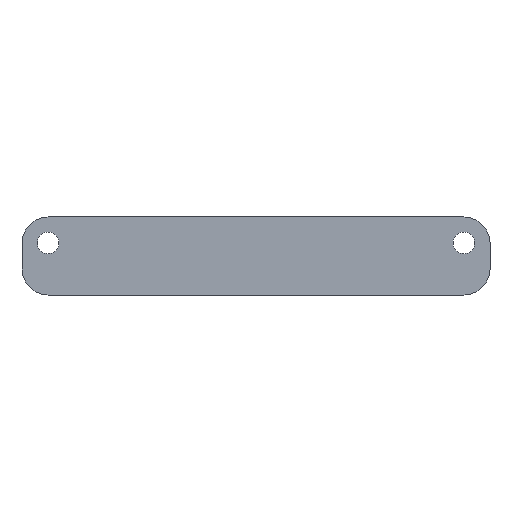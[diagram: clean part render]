
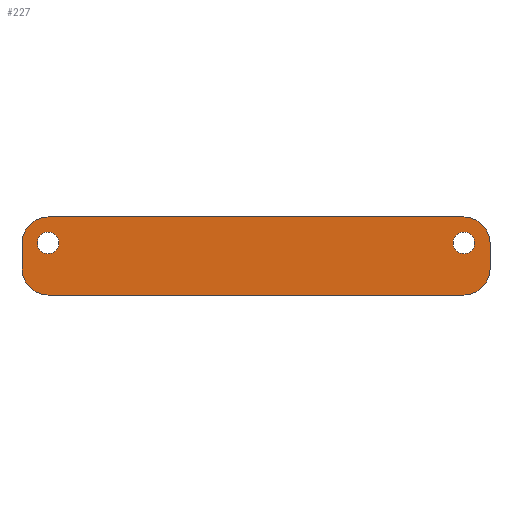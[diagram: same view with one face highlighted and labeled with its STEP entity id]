
A CAD part, top view. The second image highlights one B-rep face of the part: STEP entity #227.
In plain terms, the highlighted planar face has unit normal (0, 0, 1).
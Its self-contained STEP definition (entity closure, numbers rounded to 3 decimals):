
#15=FACE_BOUND('',#48,.T.);
#16=FACE_BOUND('',#49,.T.);
#23=PLANE('',#271);
#35=FACE_OUTER_BOUND('',#47,.T.);
#47=EDGE_LOOP('',(#191,#192,#193,#194,#195,#196,#197,#198));
#48=EDGE_LOOP('',(#199));
#49=EDGE_LOOP('',(#200));
#57=LINE('',#361,#75);
#61=LINE('',#373,#79);
#65=LINE('',#385,#83);
#69=LINE('',#397,#87);
#75=VECTOR('',#293,10.);
#79=VECTOR('',#305,10.);
#83=VECTOR('',#317,10.);
#87=VECTOR('',#329,10.);
#89=CIRCLE('',#250,5.);
#91=CIRCLE('',#253,5.);
#94=CIRCLE('',#258,12.);
#96=CIRCLE('',#262,12.);
#98=CIRCLE('',#266,12.);
#100=CIRCLE('',#270,12.);
#101=VERTEX_POINT('',#343);
#103=VERTEX_POINT('',#349);
#107=VERTEX_POINT('',#358);
#108=VERTEX_POINT('',#360);
#110=VERTEX_POINT('',#366);
#112=VERTEX_POINT('',#372);
#114=VERTEX_POINT('',#378);
#116=VERTEX_POINT('',#384);
#118=VERTEX_POINT('',#390);
#120=VERTEX_POINT('',#396);
#121=EDGE_CURVE('',#101,#101,#89,.T.);
#124=EDGE_CURVE('',#103,#103,#91,.T.);
#129=EDGE_CURVE('',#108,#107,#57,.T.);
#132=EDGE_CURVE('',#110,#108,#94,.T.);
#135=EDGE_CURVE('',#112,#110,#61,.T.);
#138=EDGE_CURVE('',#114,#112,#96,.T.);
#141=EDGE_CURVE('',#116,#114,#65,.T.);
#144=EDGE_CURVE('',#118,#116,#98,.T.);
#147=EDGE_CURVE('',#120,#118,#69,.T.);
#150=EDGE_CURVE('',#107,#120,#100,.T.);
#191=ORIENTED_EDGE('',*,*,#150,.T.);
#192=ORIENTED_EDGE('',*,*,#147,.T.);
#193=ORIENTED_EDGE('',*,*,#144,.T.);
#194=ORIENTED_EDGE('',*,*,#141,.T.);
#195=ORIENTED_EDGE('',*,*,#138,.T.);
#196=ORIENTED_EDGE('',*,*,#135,.T.);
#197=ORIENTED_EDGE('',*,*,#132,.T.);
#198=ORIENTED_EDGE('',*,*,#129,.T.);
#199=ORIENTED_EDGE('',*,*,#124,.T.);
#200=ORIENTED_EDGE('',*,*,#121,.T.);
#227=ADVANCED_FACE('',(#35,#15,#16),#23,.T.);
#250=AXIS2_PLACEMENT_3D('',#344,#277,#278);
#253=AXIS2_PLACEMENT_3D('',#350,#284,#285);
#258=AXIS2_PLACEMENT_3D('',#367,#299,#300);
#262=AXIS2_PLACEMENT_3D('',#379,#311,#312);
#266=AXIS2_PLACEMENT_3D('',#391,#323,#324);
#270=AXIS2_PLACEMENT_3D('',#401,#335,#336);
#271=AXIS2_PLACEMENT_3D('',#402,#337,#338);
#277=DIRECTION('center_axis',(0.,0.,-1.));
#278=DIRECTION('ref_axis',(-1.,0.,0.));
#284=DIRECTION('center_axis',(0.,0.,-1.));
#285=DIRECTION('ref_axis',(-1.,0.,0.));
#293=DIRECTION('',(-1.,0.,0.));
#299=DIRECTION('center_axis',(0.,0.,1.));
#300=DIRECTION('ref_axis',(1.,0.,0.));
#305=DIRECTION('',(0.,1.,0.));
#311=DIRECTION('center_axis',(0.,0.,1.));
#312=DIRECTION('ref_axis',(0.,-1.,0.));
#317=DIRECTION('',(1.,0.,0.));
#323=DIRECTION('center_axis',(0.,0.,1.));
#324=DIRECTION('ref_axis',(-1.,0.,0.));
#329=DIRECTION('',(0.,-1.,0.));
#335=DIRECTION('center_axis',(0.,0.,1.));
#336=DIRECTION('ref_axis',(0.,1.,0.));
#337=DIRECTION('center_axis',(0.,0.,1.));
#338=DIRECTION('ref_axis',(1.,0.,0.));
#343=CARTESIAN_POINT('',(196.87,0.,5.));
#344=CARTESIAN_POINT('Origin',(191.87,0.,5.));
#349=CARTESIAN_POINT('',(5.,0.,5.));
#350=CARTESIAN_POINT('Origin',(0.,0.,5.));
#358=CARTESIAN_POINT('',(0.,12.,5.));
#360=CARTESIAN_POINT('',(191.87,12.,5.));
#361=CARTESIAN_POINT('',(191.87,12.,5.));
#366=CARTESIAN_POINT('',(203.87,0.,5.));
#367=CARTESIAN_POINT('Origin',(191.87,0.,5.));
#372=CARTESIAN_POINT('',(203.87,-12.,5.));
#373=CARTESIAN_POINT('',(203.87,-12.,5.));
#378=CARTESIAN_POINT('',(191.87,-24.,5.));
#379=CARTESIAN_POINT('Origin',(191.87,-12.,5.));
#384=CARTESIAN_POINT('',(0.,-24.,5.));
#385=CARTESIAN_POINT('',(0.,-24.,5.));
#390=CARTESIAN_POINT('',(-12.,-12.,5.));
#391=CARTESIAN_POINT('Origin',(0.,-12.,5.));
#396=CARTESIAN_POINT('',(-12.,0.,5.));
#397=CARTESIAN_POINT('',(-12.,0.,5.));
#401=CARTESIAN_POINT('Origin',(0.,0.,
5.));
#402=CARTESIAN_POINT('Origin',(95.935,-6.,5.));
